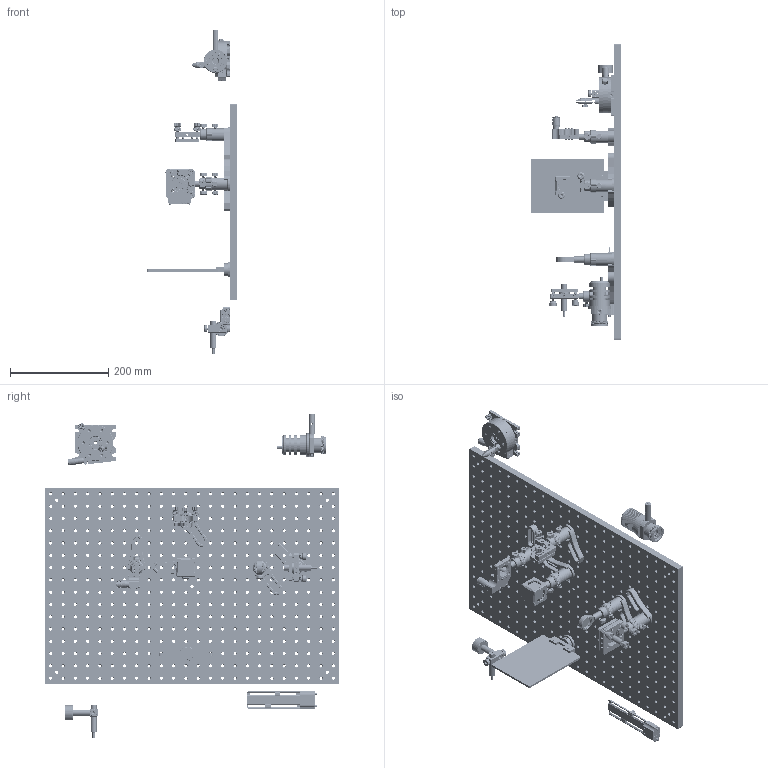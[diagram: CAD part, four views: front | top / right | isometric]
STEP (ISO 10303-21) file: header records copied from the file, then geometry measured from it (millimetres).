
FILE_DESCRIPTION((''),'2;1');
FILE_NAME('MZG-0001_ASM','2024-09-15T10:07:46',('R&D'),(''),'CREO PARAMETRIC BY PTC INC, 2021063','CREO PARAMETRIC BY PTC INC, 2021063','');
FILE_SCHEMA(('CONFIG_CONTROL_DESIGN'));
Products named in the file (166): OHD-4060; CAT57-T_A1; CAT57-T_A2; CAT57-T_A3; CAT80-T_A4; M6-2-2; SPRING_2_5X20; M6X6_HMJ; CAT57-T_ASM; SM-R1_A1; CSK3_1; SM-R1_ASM; PCAHX-S; TFA-C1; PCA31-S; M-BASE-C; MZG-0001_01_ASM; AXIS_1_6X6; SPRING_4_5X17; M4X3_HS; AXIS_1_6X9; M4X3_HSJ; MC-S1A_A2; M3X2_HS; M4X3_HS_2; BALL_3; MC-S1_A3; M3X2_HS_2; MC-S1_A1; M4X6_HS; MC-S1_A3_2; AXIS_1_6X6_3; PLS-G25_A2; AXIS_1_6X6_4; SPRING_4_5X17_2; AXIS_1_6X6_2; M3X2_HS_3; BALL_3_2; SPACER_6X1; PLS-G25_A2_2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
Assembly tree (238 placements, depth 5):
  MZG-0001_ASM
    OHD-4060
    MZG-0001_01_ASM
      CAT57-T_ASM
        CAT57-T_A1
        CAT57-T_A2
        CAT57-T_A3
        CAT80-T_A4
        M6-2-2
        SPRING_2_5X20
        M6X6_HMJ
      SM-R1_ASM
        SM-R1_A1
        CSK3_1
      PCAHX-S
      TFA-C1
      PCA31-S
      M-BASE-C
    MZG-0001_04_ASM
      CAT57-T_ASM
        CAT57-T_A1
        CAT57-T_A2
        CAT57-T_A3
        CAT80-T_A4
        M6-2-2
        SPRING_2_5X20
        M6X6_HMJ
      PCA31-S
      M-BASE-C
      MC-S1A_ASM
        MC-S1A_ASM_ASM
          AXIS_1_6X6
          SPRING_4_5X17
          M4X3_HS
          AXIS_1_6X9
          M4X3_HSJ
          MC-S1A_A2
          M3X2_HS
          M4X3_HS_2
          BALL_3
          MC-S1_A3
          M3X2_HS_2
          MC-S1_A1
          M4X6_HS
          MC-S1_A3_2
          AXIS_1_6X6_3
          PLS-G25_A2
          AXIS_1_6X6_4
          SPRING_4_5X17_2
          AXIS_1_6X6_2
          M3X2_HS_3
          BALL_3_2
          SPACER_6X1
          PLS-G25_A2_2
          MC-S1_A3_3
          M3X2_HS_4
          M3X2_HS_5
          BALL_3_3
          M3X2_HS_6
          AXIS_1_6X9_2
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Bounding box: 183.7 x 600 x 658.65 mm (x, y, z)
Volume: 3895073.5 mm3; surface area: 1053565.5 mm2
Topology: 247 solids, 458 shells, 27006 faces, 70565 edges, 44807 vertices
Faces by surface type: cylinder 9634, plane 9004, bspline 4727, cone 3404, torus 144, sphere 66, extrusion 25, revolution 2
Entity records: 1128788 total; most frequent: CARTESIAN_POINT 684670, ORIENTED_EDGE 101636, DIRECTION 74448, EDGE_CURVE 50818, VERTEX_POINT 32220, VECTOR 25090, LINE 25065, AXIS2_PLACEMENT_3D 24678
